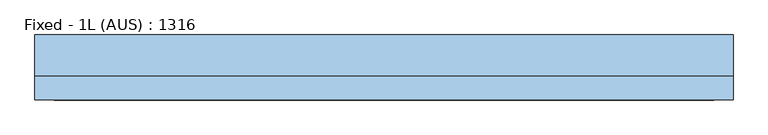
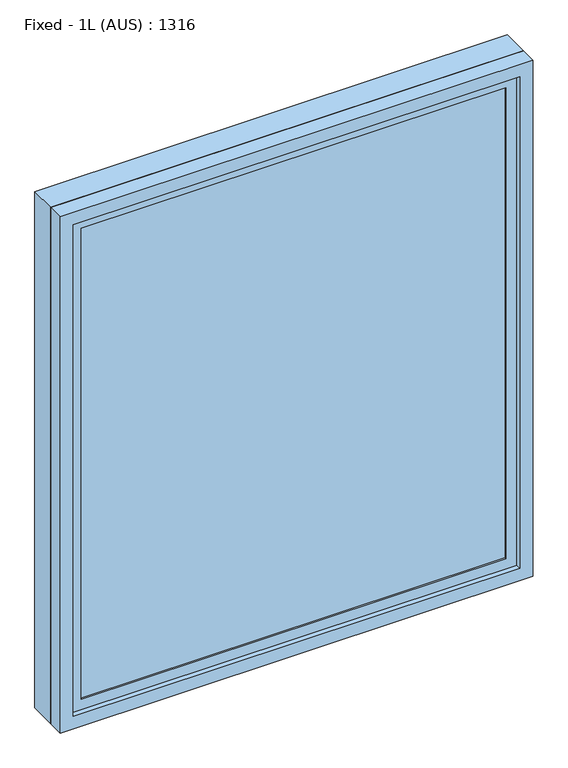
"""IFC4 building model written with IfcOpenShell, lengths in millimetres: window geometry, Fixed - 1L (AUS) : 1316."""

from ifc_helpers import new_model, si_unit, frame, origin, place, context, project, spatial, polyline, outline, extrude, source, transform, mapped, element, save


def fixed_1l_aus_1316_c28b4be6(model_context):
    return source(origin(), model_context, "Body", "SweptSolid", [
        extrude(outline(polyline([(910.173759, -9.471869), (910.173759, -15.471869), (-257.826241, -15.471869), (-257.826241, -9.471869), (910.173759, -9.471869)])), frame((0.0, 0.0, 966.0), z_axis=(0.0, 0.0, 1.0), x_axis=(1.0, 0.0, 0.0)), (0.0, 0.0, 1.0), 1368.0),
        extrude(outline(polyline([(2364.0, -287.826241), (936.0, -287.826241), (936.0, 940.173759), (2364.0, 940.173759), (2364.0, -287.826241)]), holes=[polyline([(966.0, -257.826241), (2334.0, -257.826241), (2334.0, 910.173759), (966.0, 910.173759), (966.0, -257.826241)])]), frame((0.0, -19.971869, 0.0), z_axis=(0.0, 1.0, 0.0), x_axis=(0.0, 0.0, 1.0)), (0.0, 0.0, 1.0), 15.0),
        extrude(outline(polyline([(2400.0, -323.826241), (900.0, -323.826241), (900.0, 976.173759), (2400.0, 976.173759), (2400.0, -323.826241)]), holes=[polyline([(920.0, -303.826241), (2380.0, -303.826241), (2380.0, 956.173759), (920.0, 956.173759), (920.0, -303.826241)])]), frame((0.0, 10.0, 0.0), z_axis=(0.0, 1.0, 0.0), x_axis=(0.0, 0.0, 1.0)), (0.0, 0.0, 1.0), 76.0),
        extrude(outline(polyline([(2400.0, -323.826241), (900.0, -323.826241), (900.0, 976.173759), (2400.0, 976.173759), (2400.0, -323.826241)]), holes=[polyline([(936.0, -287.826241), (2364.0, -287.826241), (2364.0, 940.173759), (936.0, 940.173759), (936.0, -287.826241)])]), frame((0.0, -35.0, 0.0), z_axis=(0.0, 1.0, 0.0), x_axis=(0.0, 0.0, 1.0)), (0.0, 0.0, 1.0), 45.0),
    ])


if __name__ == "__main__":
    model = new_model("IFC4")
    model_context = context("Model", 3, world=origin())
    ifc_project = project(units=[si_unit("LENGTHUNIT", "METRE", prefix="MILLI")], contexts=[model_context])
    site = spatial("IfcSite", under=ifc_project)
    building = spatial("IfcBuilding", under=site)
    placement = place(None, origin())
    fixed_1l_aus_1316_shape = fixed_1l_aus_1316_c28b4be6(model_context)
    element("IfcWindow", 1, ObjectType="Fixed - 1L (AUS) : 1316", at=placement, inside=building, context=model_context, shape_type="MappedRepresentation", body=[
        mapped(fixed_1l_aus_1316_shape, transform((0.0, 0.0, 0.0), x_axis=(1.0, 0.0, 0.0), y_axis=(0.0, 1.0, 0.0), z_axis=(0.0, 0.0, 1.0))),
    ])
    save(model, "model.ifc")
